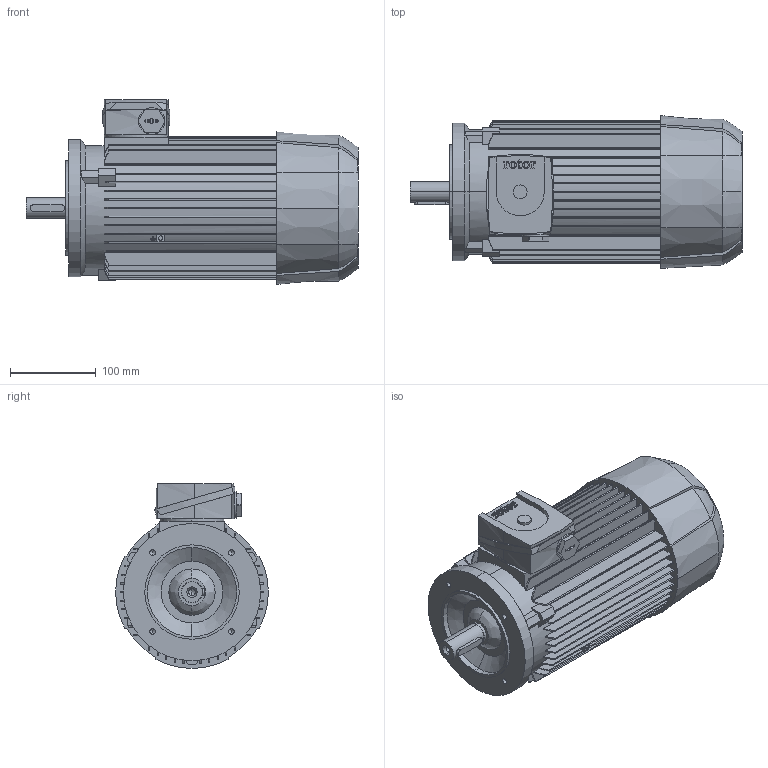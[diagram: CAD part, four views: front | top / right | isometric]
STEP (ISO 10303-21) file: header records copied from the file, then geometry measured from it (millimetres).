
FILE_DESCRIPTION (( 'STEP AP203' ), '1' );
FILE_NAME ('6RN90L02E26 IM3641-B.STEP', '2017-01-17T15:25:26', ( 'rotor' ), ( 'Hewlett-Packard Company' ), 'SwSTEP 2.0', 'SolidWorks 2015', '' );
FILE_SCHEMA (( 'CONFIG_CONTROL_DESIGN' ));
Length unit declared in the file: millimetre
Products named in the file (1): 6RN90L02E26 IM3641-B
Bounding box: 387 x 178 x 215.5 mm (x, y, z)
Volume: 6645626.1 mm3; surface area: 456199.7 mm2
Topology: 1 solids, 1 shells, 578 faces, 1621 edges, 1064 vertices
Faces by surface type: plane 330, cylinder 122, bspline 99, cone 27
Entity records: 21560 total; most frequent: CARTESIAN_POINT 7184, ORIENTED_EDGE 3222, DIRECTION 2682, EDGE_CURVE 1611, VERTEX_POINT 1064, LINE 904, VECTOR 904, AXIS2_PLACEMENT_3D 889
